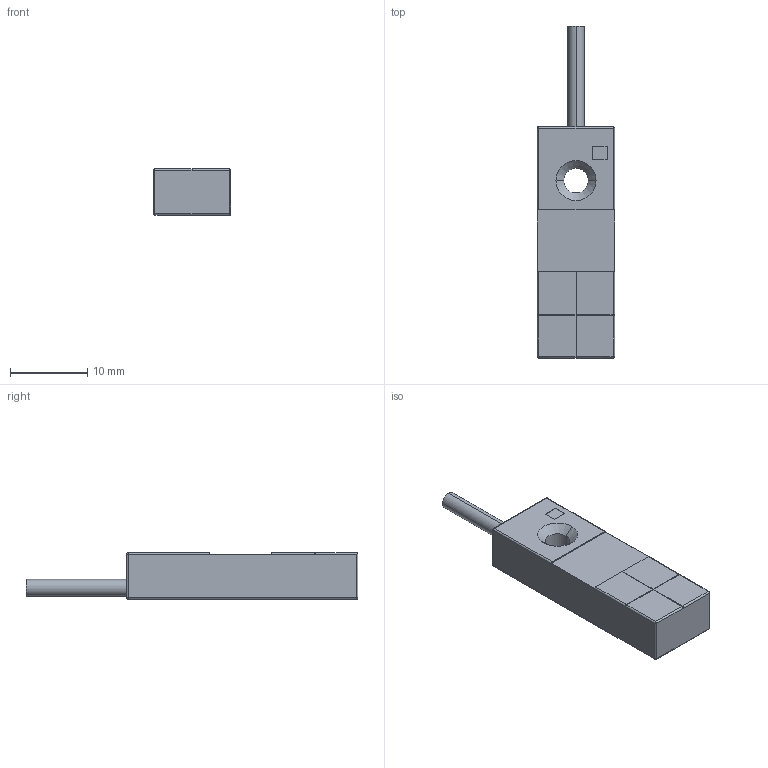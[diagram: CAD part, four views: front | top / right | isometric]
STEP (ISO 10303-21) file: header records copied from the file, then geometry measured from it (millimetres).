
FILE_DESCRIPTION (( 'STEP AP214' ), '1' );
FILE_NAME ('E10.STEP', '2015-09-23T09:34:51', ( '' ), ( '' ), 'SwSTEP 2.0', 'SolidWorks 2013', '' );
FILE_SCHEMA (( 'AUTOMOTIVE_DESIGN' ));
Length unit declared in the file: millimetre
Products named in the file (1): E10
Bounding box: 10 x 43.05 x 6 mm (x, y, z)
Volume: 1781.7 mm3; surface area: 1202.9 mm2
Topology: 1 solids, 1 shells, 48 faces, 122 edges, 75 vertices
Faces by surface type: plane 28, cylinder 15, sphere 3, cone 2
Entity records: 1534 total; most frequent: CARTESIAN_POINT 276, ORIENTED_EDGE 238, DIRECTION 235, EDGE_CURVE 119, VECTOR 79, LINE 79, AXIS2_PLACEMENT_3D 78, VERTEX_POINT 75
